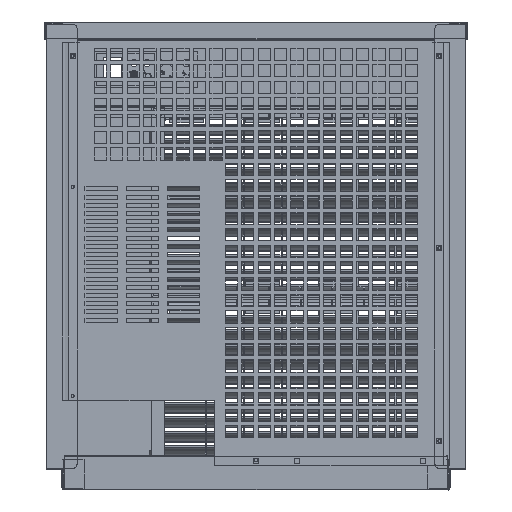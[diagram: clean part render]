
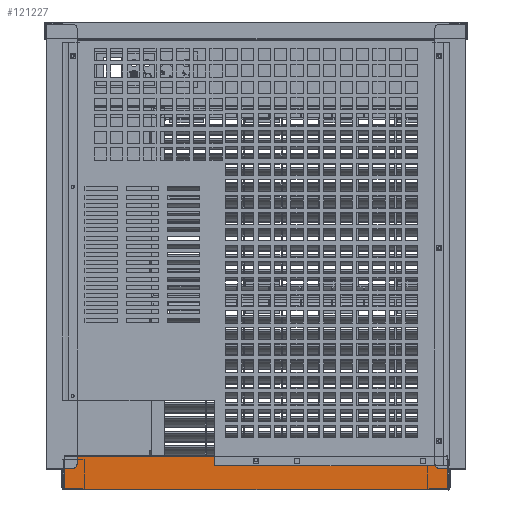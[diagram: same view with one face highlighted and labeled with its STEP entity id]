
A CAD part, left-side view. The second image highlights one B-rep face of the part: STEP entity #121227.
In plain terms, the highlighted planar face has unit normal (-1, 0, 0) as drawn and (0, 0, 1) by its records, which use the part's own axes.
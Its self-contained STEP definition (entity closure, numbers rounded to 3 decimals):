
#2286=LINE('',#166779,#17596);
#2301=LINE('',#166831,#17611);
#2461=LINE('',#167258,#17771);
#2476=LINE('',#167297,#17786);
#2482=LINE('',#167310,#17792);
#2485=LINE('',#167316,#17795);
#2487=LINE('',#167319,#17797);
#2488=LINE('',#167321,#17798);
#2494=LINE('',#167334,#17804);
#2497=LINE('',#167340,#17807);
#2499=LINE('',#167343,#17809);
#2500=LINE('',#167345,#17810);
#2506=LINE('',#167358,#17816);
#2509=LINE('',#167364,#17819);
#2511=LINE('',#167367,#17821);
#2512=LINE('',#167369,#17822);
#2517=LINE('',#167379,#17827);
#2518=LINE('',#167381,#17828);
#2519=LINE('',#167383,#17829);
#2522=LINE('',#167389,#17832);
#2526=LINE('',#167396,#17836);
#2528=LINE('',#167399,#17838);
#17596=VECTOR('',#136943,1000.);
#17611=VECTOR('',#136996,1000.);
#17771=VECTOR('',#137528,1000.);
#17786=VECTOR('',#137567,1000.);
#17792=VECTOR('',#137575,1000.);
#17795=VECTOR('',#137580,1000.);
#17797=VECTOR('',#137584,1000.);
#17798=VECTOR('',#137587,1000.);
#17804=VECTOR('',#137595,1000.);
#17807=VECTOR('',#137600,1000.);
#17809=VECTOR('',#137604,1000.);
#17810=VECTOR('',#137607,1000.);
#17816=VECTOR('',#137615,1000.);
#17819=VECTOR('',#137620,1000.);
#17821=VECTOR('',#137624,1000.);
#17822=VECTOR('',#137627,1000.);
#17827=VECTOR('',#137634,1000.);
#17828=VECTOR('',#137637,1000.);
#17829=VECTOR('',#137640,1000.);
#17832=VECTOR('',#137645,1000.);
#17836=VECTOR('',#137651,1000.);
#17838=VECTOR('',#137655,1000.);
#33840=ORIENTED_EDGE('',*,*,#68714,.F.);
#33841=ORIENTED_EDGE('',*,*,#68503,.T.);
#33842=ORIENTED_EDGE('',*,*,#68783,.T.);
#33843=ORIENTED_EDGE('',*,*,#68779,.F.);
#33844=ORIENTED_EDGE('',*,*,#68776,.F.);
#33845=ORIENTED_EDGE('',*,*,#68775,.F.);
#33846=ORIENTED_EDGE('',*,*,#68774,.F.);
#33847=ORIENTED_EDGE('',*,*,#68769,.T.);
#33848=ORIENTED_EDGE('',*,*,#68785,.T.);
#33849=ORIENTED_EDGE('',*,*,#68532,.T.);
#33850=ORIENTED_EDGE('',*,*,#68768,.F.);
#33851=ORIENTED_EDGE('',*,*,#68766,.F.);
#33852=ORIENTED_EDGE('',*,*,#68763,.F.);
#33853=ORIENTED_EDGE('',*,*,#68757,.F.);
#33854=ORIENTED_EDGE('',*,*,#68756,.T.);
#33855=ORIENTED_EDGE('',*,*,#68754,.T.);
#33856=ORIENTED_EDGE('',*,*,#68751,.T.);
#33857=ORIENTED_EDGE('',*,*,#68745,.T.);
#33858=ORIENTED_EDGE('',*,*,#68744,.F.);
#33859=ORIENTED_EDGE('',*,*,#68742,.F.);
#33860=ORIENTED_EDGE('',*,*,#68739,.F.);
#33861=ORIENTED_EDGE('',*,*,#68733,.F.);
#68503=EDGE_CURVE('',#86220,#86219,#2286,.T.);
#68532=EDGE_CURVE('',#86238,#86237,#2301,.T.);
#68714=EDGE_CURVE('',#86220,#86237,#2461,.T.);
#68733=EDGE_CURVE('',#86319,#86320,#2476,.T.);
#68739=EDGE_CURVE('',#86320,#86323,#2482,.T.);
#68742=EDGE_CURVE('',#86323,#86325,#2485,.F.);
#68744=EDGE_CURVE('',#86325,#86319,#2487,.F.);
#68745=EDGE_CURVE('',#86327,#86328,#2488,.F.);
#68751=EDGE_CURVE('',#86331,#86327,#2494,.T.);
#68754=EDGE_CURVE('',#86333,#86331,#2497,.T.);
#68756=EDGE_CURVE('',#86328,#86333,#2499,.F.);
#68757=EDGE_CURVE('',#86335,#86336,#2500,.F.);
#68763=EDGE_CURVE('',#86336,#86339,#2506,.T.);
#68766=EDGE_CURVE('',#86339,#86341,#2509,.T.);
#68768=EDGE_CURVE('',#86341,#86335,#2511,.F.);
#68769=EDGE_CURVE('',#86343,#86344,#2512,.T.);
#68774=EDGE_CURVE('',#86343,#86314,#2517,.T.);
#68775=EDGE_CURVE('',#86314,#86317,#2518,.T.);
#68776=EDGE_CURVE('',#86317,#86347,#2519,.T.);
#68779=EDGE_CURVE('',#86347,#86349,#2522,.T.);
#68783=EDGE_CURVE('',#86219,#86349,#2526,.T.);
#68785=EDGE_CURVE('',#86344,#86238,#2528,.T.);
#86219=VERTEX_POINT('',#166778);
#86220=VERTEX_POINT('',#166780);
#86237=VERTEX_POINT('',#166830);
#86238=VERTEX_POINT('',#166832);
#86314=VERTEX_POINT('',#167280);
#86317=VERTEX_POINT('',#167290);
#86319=VERTEX_POINT('',#167298);
#86320=VERTEX_POINT('',#167299);
#86323=VERTEX_POINT('',#167307);
#86325=VERTEX_POINT('',#167313);
#86327=VERTEX_POINT('',#167322);
#86328=VERTEX_POINT('',#167323);
#86331=VERTEX_POINT('',#167331);
#86333=VERTEX_POINT('',#167337);
#86335=VERTEX_POINT('',#167346);
#86336=VERTEX_POINT('',#167347);
#86339=VERTEX_POINT('',#167355);
#86341=VERTEX_POINT('',#167361);
#86343=VERTEX_POINT('',#167370);
#86344=VERTEX_POINT('',#167371);
#86347=VERTEX_POINT('',#167384);
#86349=VERTEX_POINT('',#167390);
#99445=EDGE_LOOP('',(#33840,#33841,#33842,#33843,#33844,#33845,#33846,#33847,
#33848,#33849));
#99446=EDGE_LOOP('',(#33850,#33851,#33852,#33853));
#99447=EDGE_LOOP('',(#33854,#33855,#33856,#33857));
#99448=EDGE_LOOP('',(#33858,#33859,#33860,#33861));
#107844=FACE_BOUND('',#99445,.T.);
#107845=FACE_BOUND('',#99446,.T.);
#107846=FACE_BOUND('',#99447,.T.);
#107847=FACE_BOUND('',#99448,.T.);
#116034=PLANE('',#129650);
#121227=ADVANCED_FACE('',(#107844,#107845,#107846,#107847),#116034,.T.);
#129650=AXIS2_PLACEMENT_3D('',#167400,#137656,#137657);
#136943=DIRECTION('',(0.,1.,0.));
#136996=DIRECTION('',(0.,-1.,0.));
#137528=DIRECTION('',(-1.,0.,0.));
#137567=DIRECTION('',(0.,-1.,0.));
#137575=DIRECTION('',(1.,0.,0.));
#137580=DIRECTION('',(0.,-1.,0.));
#137584=DIRECTION('',(1.,0.,0.));
#137587=DIRECTION('',(1.,0.,0.));
#137595=DIRECTION('',(0.,-1.,0.));
#137600=DIRECTION('',(1.,0.,0.));
#137604=DIRECTION('',(0.,-1.,0.));
#137607=DIRECTION('',(1.,0.,0.));
#137615=DIRECTION('',(0.,-1.,0.));
#137620=DIRECTION('',(1.,0.,0.));
#137624=DIRECTION('',(0.,-1.,0.));
#137627=DIRECTION('',(0.,1.,0.));
#137634=DIRECTION('',(1.,0.,0.));
#137637=DIRECTION('',(1.,0.,0.));
#137640=DIRECTION('',(1.,0.,0.));
#137645=DIRECTION('',(0.,1.,0.));
#137651=DIRECTION('',(-1.,0.,0.));
#137655=DIRECTION('',(-1.,0.,0.));
#137656=DIRECTION('',(0.,0.,1.));
#137657=DIRECTION('',(0.,-1.,0.));
#166778=CARTESIAN_POINT('',(233.9,40.001,264.9));
#166779=CARTESIAN_POINT('',(233.9,40.001,264.9));
#166780=CARTESIAN_POINT('',(233.9,0.002,264.9));
#166830=CARTESIAN_POINT('',(-233.9,0.002,264.9));
#166831=CARTESIAN_POINT('',(-233.9,40.001,264.9));
#166832=CARTESIAN_POINT('',(-233.9,40.001,264.9));
#167258=CARTESIAN_POINT('',(233.9,0.002,264.9));
#167280=CARTESIAN_POINT('',(-202.9,39.999,264.9));
#167290=CARTESIAN_POINT('',(202.9,39.999,264.9));
#167297=CARTESIAN_POINT('',(-207.1,-1.199,264.9));
#167298=CARTESIAN_POINT('',(-207.1,8.701,264.9));
#167299=CARTESIAN_POINT('',(-207.1,2.501,264.9));
#167307=CARTESIAN_POINT('',(-200.9,2.501,264.9));
#167310=CARTESIAN_POINT('',(-273.9,2.501,264.9));
#167313=CARTESIAN_POINT('',(-200.9,8.701,264.9));
#167316=CARTESIAN_POINT('',(-200.9,-1.199,264.9));
#167319=CARTESIAN_POINT('',(-273.9,8.701,264.9));
#167321=CARTESIAN_POINT('',(-273.9,2.501,264.9));
#167322=CARTESIAN_POINT('',(-46.9,2.501,264.9));
#167323=CARTESIAN_POINT('',(-53.1,2.501,264.9));
#167331=CARTESIAN_POINT('',(-46.9,8.701,264.9));
#167334=CARTESIAN_POINT('',(-46.9,-1.199,264.9));
#167337=CARTESIAN_POINT('',(-53.1,8.701,264.9));
#167340=CARTESIAN_POINT('',(-273.9,8.701,264.9));
#167343=CARTESIAN_POINT('',(-53.1,-1.199,264.9));
#167345=CARTESIAN_POINT('',(-273.9,8.701,264.9));
#167346=CARTESIAN_POINT('',(3.1,8.701,264.9));
#167347=CARTESIAN_POINT('',(-3.1,8.701,264.9));
#167355=CARTESIAN_POINT('',(-3.1,2.501,264.9));
#167358=CARTESIAN_POINT('',(-3.1,-1.199,264.9));
#167361=CARTESIAN_POINT('',(3.1,2.501,264.9));
#167364=CARTESIAN_POINT('',(-273.9,2.501,264.9));
#167367=CARTESIAN_POINT('',(3.1,-1.199,264.9));
#167369=CARTESIAN_POINT('',(-204.1,39.999,264.9));
#167370=CARTESIAN_POINT('',(-204.1,39.999,264.9));
#167371=CARTESIAN_POINT('',(-204.1,40.001,264.9));
#167379=CARTESIAN_POINT('',(202.9,39.999,264.9));
#167381=CARTESIAN_POINT('',(-202.9,39.999,264.9));
#167383=CARTESIAN_POINT('',(202.9,39.999,264.9));
#167384=CARTESIAN_POINT('',(204.1,39.999,264.9));
#167389=CARTESIAN_POINT('',(204.1,39.999,264.9));
#167390=CARTESIAN_POINT('',(204.1,40.001,264.9));
#167396=CARTESIAN_POINT('',(202.9,40.001,264.9));
#167399=CARTESIAN_POINT('',(-202.9,40.001,264.9));
#167400=CARTESIAN_POINT('',(-273.9,-1.199,264.9));
